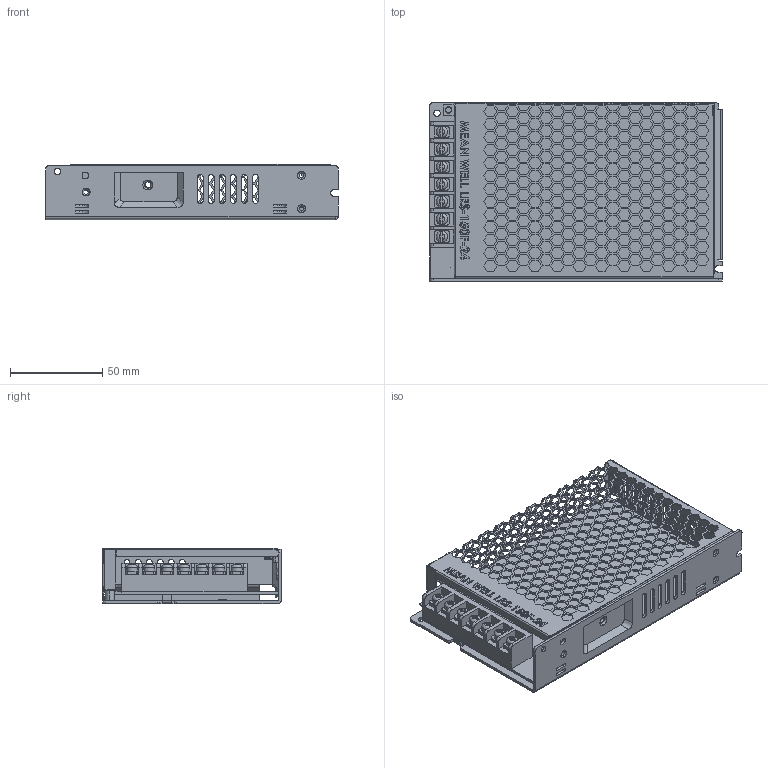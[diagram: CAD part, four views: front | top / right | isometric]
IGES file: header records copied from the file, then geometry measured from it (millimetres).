
Start section: SolidWorks IGES file using analytic representation for surfaces
Global section: file name: C:\Users\micheal_berezny\Desktop\SolidWorks\PWR-IO-24VDC.IGS; native system: SolidWorks 2013; preprocessor: SolidWorks 2013; author: mike_berezny; date: 200504.110739; units: inch
Bounding box: 159 x 97 x 30 mm (x, y, z)
Surface area: 101197 mm2 (no closed solid volume)
Topology: 0 solids, 0 shells, 2993 faces, 21885 edges, 21884 vertices
Faces by surface type: bspline 2737, revolution 256
